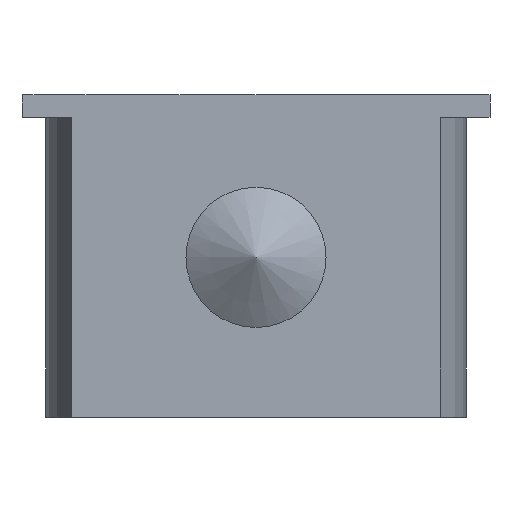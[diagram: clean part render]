
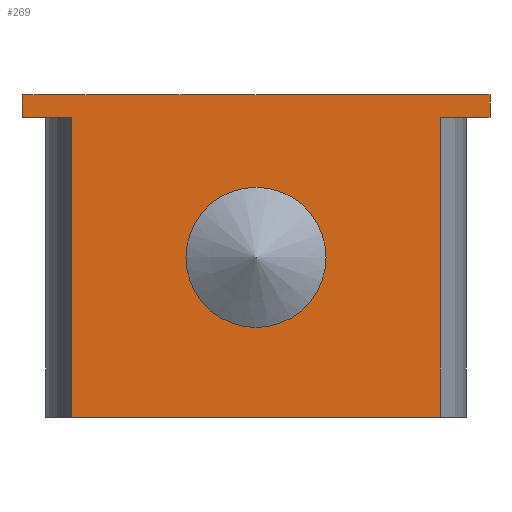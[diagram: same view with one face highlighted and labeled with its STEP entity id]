
A CAD part, left-side view. The second image highlights one B-rep face of the part: STEP entity #269.
In plain terms, the highlighted planar face has unit normal (-1, 0, 0).
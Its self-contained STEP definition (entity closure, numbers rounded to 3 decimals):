
#59=FACE_OUTER_BOUND('',#74,.T.);
#74=EDGE_LOOP('',(#220,#221,#222,#223,#224,#225,#226,#227));
#82=LINE('',#481,#102);
#88=LINE('',#496,#108);
#89=LINE('',#503,#109);
#90=LINE('',#505,#110);
#92=LINE('',#516,#112);
#96=LINE('',#530,#116);
#97=LINE('',#532,#117);
#98=LINE('',#533,#118);
#102=VECTOR('',#389,10.);
#108=VECTOR('',#403,10.);
#109=VECTOR('',#410,10.);
#110=VECTOR('',#411,10.);
#112=VECTOR('',#423,10.);
#116=VECTOR('',#441,10.);
#117=VECTOR('',#442,10.);
#118=VECTOR('',#443,10.);
#121=VERTEX_POINT('',#477);
#123=VERTEX_POINT('',#480);
#127=VERTEX_POINT('',#492);
#128=VERTEX_POINT('',#494);
#131=VERTEX_POINT('',#501);
#132=VERTEX_POINT('',#504);
#136=VERTEX_POINT('',#514);
#140=VERTEX_POINT('',#531);
#147=EDGE_CURVE('',#121,#123,#82,.T.);
#155=EDGE_CURVE('',#127,#128,#88,.T.);
#158=EDGE_CURVE('',#131,#128,#89,.T.);
#159=EDGE_CURVE('',#123,#132,#90,.T.);
#165=EDGE_CURVE('',#131,#136,#92,.T.);
#172=EDGE_CURVE('',#127,#121,#96,.T.);
#173=EDGE_CURVE('',#140,#136,#97,.T.);
#174=EDGE_CURVE('',#132,#140,#98,.T.);
#220=ORIENTED_EDGE('',*,*,#172,.F.);
#221=ORIENTED_EDGE('',*,*,#155,.T.);
#222=ORIENTED_EDGE('',*,*,#158,.F.);
#223=ORIENTED_EDGE('',*,*,#165,.T.);
#224=ORIENTED_EDGE('',*,*,#173,.F.);
#225=ORIENTED_EDGE('',*,*,#174,.F.);
#226=ORIENTED_EDGE('',*,*,#159,.F.);
#227=ORIENTED_EDGE('',*,*,#147,.F.);
#257=PLANE('',#367);
#269=ADVANCED_FACE('',(#59),#257,.T.);
#367=AXIS2_PLACEMENT_3D('',#529,#439,#440);
#389=DIRECTION('',(0.,0.,-1.));
#403=DIRECTION('',(0.,0.,-1.));
#410=DIRECTION('',(0.,1.,0.));
#411=DIRECTION('',(0.,1.,0.));
#423=DIRECTION('',(0.,0.,-1.));
#439=DIRECTION('center_axis',(-1.,0.,0.));
#440=DIRECTION('ref_axis',(0.,1.,0.));
#441=DIRECTION('',(0.,-1.,0.));
#442=DIRECTION('',(0.,1.,0.));
#443=DIRECTION('',(0.,0.,-1.));
#477=CARTESIAN_POINT('',(0.,-8.35,0.));
#480=CARTESIAN_POINT('',(0.,-8.35,-0.8));
#481=CARTESIAN_POINT('',(0.,-8.35,0.));
#492=CARTESIAN_POINT('',(0.,8.35,0.));
#494=CARTESIAN_POINT('',(0.,8.35,-0.8));
#496=CARTESIAN_POINT('',(0.,8.35,0.));
#501=CARTESIAN_POINT('',(0.,6.58,-0.8));
#503=CARTESIAN_POINT('',(0.,8.35,-0.8));
#504=CARTESIAN_POINT('',(0.,-6.58,-0.8));
#505=CARTESIAN_POINT('',(0.,8.35,-0.8));
#514=CARTESIAN_POINT('',(0.,6.58,-11.5));
#516=CARTESIAN_POINT('',(0.,6.58,0.));
#529=CARTESIAN_POINT('Origin',(0.,-6.58,0.));
#530=CARTESIAN_POINT('',(0.,8.35,0.));
#531=CARTESIAN_POINT('',(0.,-6.58,-11.5));
#532=CARTESIAN_POINT('',(0.,6.58,-11.5));
#533=CARTESIAN_POINT('',(0.,-6.58,0.));
